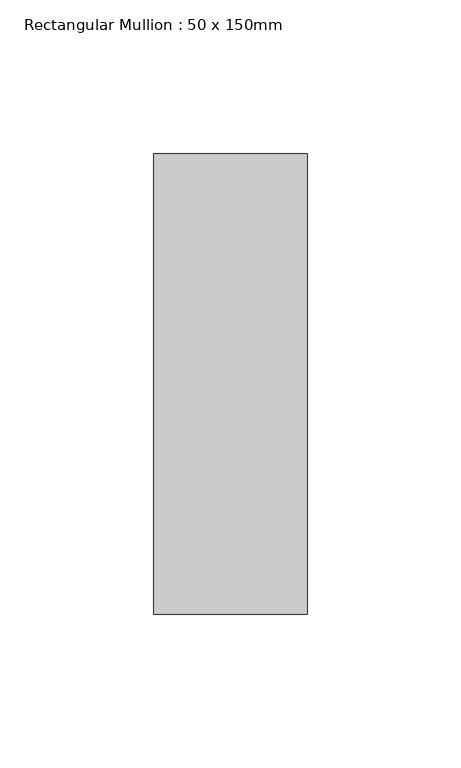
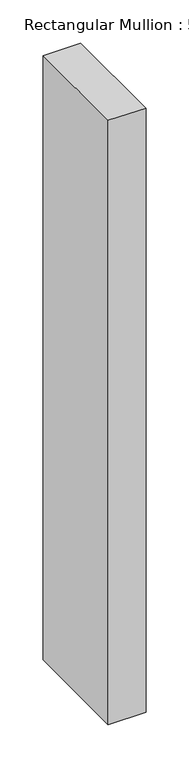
"""IFC4 building model written with IfcOpenShell, lengths in millimetres: member geometry, Rectangular Mullion : 50 x 150mm."""

from ifc_helpers import new_model, si_unit, frame, origin, place, context, project, spatial, polyline, outline, extrude, source, transform, mapped, element, save


def rectangular_mullion_50_x_150mm_cc7d0dd8(model_context):
    return source(origin(), model_context, "Body", "SweptSolid", [
        extrude(outline(polyline([(25.0, 75.0), (25.0, -75.0), (-25.0, -75.0), (-25.0, 75.0), (25.0, 75.0)])), frame((0.0, 0.0, -849.9999998), z_axis=(0.0, 0.0, 1.0), x_axis=(1.0, 0.0, 0.0)), (0.0, 0.0, 1.0), 849.9999998),
    ])


if __name__ == "__main__":
    model = new_model("IFC4")
    model_context = context("Model", 3, world=origin())
    ifc_project = project(units=[si_unit("LENGTHUNIT", "METRE", prefix="MILLI")], contexts=[model_context])
    site = spatial("IfcSite", under=ifc_project)
    building = spatial("IfcBuilding", under=site)
    placement = place(None, origin())
    rectangular_mullion_50_x_150mm_shape = rectangular_mullion_50_x_150mm_cc7d0dd8(model_context)
    element("IfcMember", 1, ObjectType="Rectangular Mullion : 50 x 150mm", at=placement, inside=building, context=model_context, shape_type="MappedRepresentation", body=[
        mapped(rectangular_mullion_50_x_150mm_shape, transform((0.0, 0.0, 0.0), x_axis=(1.0, 0.0, 0.0), y_axis=(0.0, 1.0, 0.0), z_axis=(0.0, 0.0, 1.0))),
    ])
    save(model, "model.ifc")
